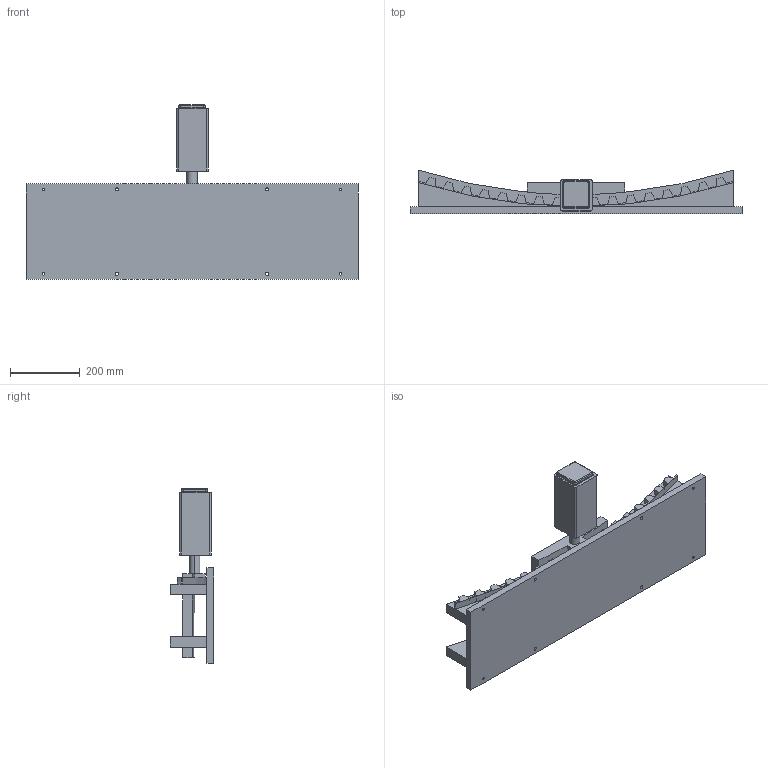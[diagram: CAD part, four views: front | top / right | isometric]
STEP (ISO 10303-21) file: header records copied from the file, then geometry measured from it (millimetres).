
FILE_DESCRIPTION (( 'STEP AP214' ), '1' );
FILE_NAME ('褒弇怢蚾饜.STEP', '2022-10-23T05:43:00', ( '' ), ( '' ), 'SwSTEP 2.0', 'SolidWorks 2017', '' );
FILE_SCHEMA (( 'AUTOMOTIVE_DESIGN' ));
Length unit declared in the file: millimetre
Products named in the file (3): ƽ̨; 褒弇怢蚾饜; 褒弇怢
Assembly tree (2 placements, depth 2):
  褒弇怢蚾饜
    褒弇怢
    ƽ̨
Bounding box: 950 x 125 x 500 mm (x, y, z)
Volume: 12246093.9 mm3; surface area: 1096907.3 mm2
Topology: 2 solids, 2 shells, 193 faces, 504 edges, 324 vertices
Faces by surface type: cylinder 99, plane 44, bspline 34, cone 8, torus 8
Entity records: 6216 total; most frequent: CARTESIAN_POINT 1324, ORIENTED_EDGE 992, DIRECTION 964, EDGE_CURVE 496, AXIS2_PLACEMENT_3D 372, VERTEX_POINT 324, EDGE_LOOP 226, VECTOR 220
